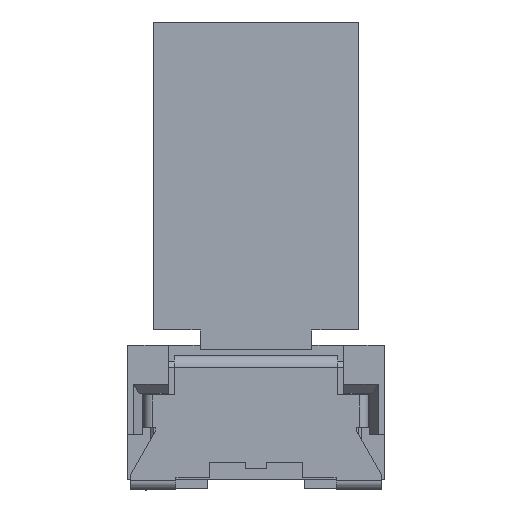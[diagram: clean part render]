
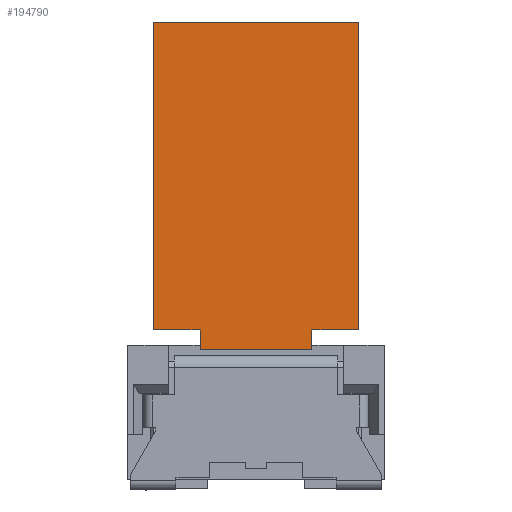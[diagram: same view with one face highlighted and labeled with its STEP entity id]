
A CAD part, left-side view. The second image highlights one B-rep face of the part: STEP entity #194790.
In plain terms, the highlighted planar face has unit normal (-1, 0, 0).
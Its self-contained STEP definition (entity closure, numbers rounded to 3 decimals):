
#40840=CARTESIAN_POINT('',(-11.054,29.1,13.848));
#40850=DIRECTION('',(0.,0.,1.));
#40860=VECTOR('',#40850,1.);
#40870=LINE('',#40840,#40860);
#40880=CARTESIAN_POINT('',(-11.054,29.1,12.9));
#40890=VERTEX_POINT('',#40880);
#40900=CARTESIAN_POINT('',(-11.054,29.1,13.55));
#40910=VERTEX_POINT('',#40900);
#40920=EDGE_CURVE('',#40890,#40910,#40870,.T.);
#41310=CARTESIAN_POINT('',(-11.054,30.22,12.9));
#41320=DIRECTION('',(0.,-1.,0.));
#41330=VECTOR('',#41320,1.);
#41340=LINE('',#41310,#41330);
#41350=CARTESIAN_POINT('',(-11.054,25.4,12.9));
#41360=VERTEX_POINT('',#41350);
#41370=EDGE_CURVE('',#40890,#41360,#41340,.T.);
#122450=CARTESIAN_POINT('',(-11.054,30.65,13.55));
#122460=VERTEX_POINT('',#122450);
#122490=CARTESIAN_POINT('',(-11.054,30.22,13.55));
#122500=DIRECTION('',(0.,1.,0.));
#122510=VECTOR('',#122500,1.);
#122520=LINE('',#122490,#122510);
#122530=EDGE_CURVE('',#40910,#122460,#122520,.T.);
#122680=CARTESIAN_POINT('',(-11.054,25.4,13.55));
#122690=VERTEX_POINT('',#122680);
#122720=CARTESIAN_POINT('',(-11.054,30.22,13.55));
#122730=DIRECTION('',(0.,1.,0.));
#122740=VECTOR('',#122730,1.);
#122750=LINE('',#122720,#122740);
#122760=CARTESIAN_POINT('',(-11.054,23.85,13.55));
#122770=VERTEX_POINT('',#122760);
#122780=EDGE_CURVE('',#122770,#122690,#122750,.T.);
#194170=CARTESIAN_POINT('',(-11.054,25.4,13.848));
#194180=DIRECTION('',(0.,0.,1.));
#194190=VECTOR('',#194180,1.);
#194200=LINE('',#194170,#194190);
#194210=EDGE_CURVE('',#41360,#122690,#194200,.T.);
#194450=CARTESIAN_POINT('',(-11.054,23.85,23.75));
#194460=DIRECTION('',(-1.,0.,0.));
#194470=DIRECTION('',(0.,0.,1.));
#194480=AXIS2_PLACEMENT_3D('',#194450,#194460,#194470);
#194490=PLANE('',#194480);
#194500=ORIENTED_EDGE('',*,*,#41370,.T.);
#194510=ORIENTED_EDGE('',*,*,#40920,.F.);
#194520=ORIENTED_EDGE('',*,*,#122530,.F.);
#194530=CARTESIAN_POINT('',(-11.054,30.65,11.165));
#194540=DIRECTION('',(0.,0.,1.));
#194550=VECTOR('',#194540,1.);
#194560=LINE('',#194530,#194550);
#194570=CARTESIAN_POINT('',(-11.054,30.65,23.75));
#194580=VERTEX_POINT('',#194570);
#194590=EDGE_CURVE('',#122460,#194580,#194560,.T.);
#194600=ORIENTED_EDGE('',*,*,#194590,.F.);
#194610=CARTESIAN_POINT('',(-11.054,30.22,23.75));
#194620=DIRECTION('',(0.,-1.,0.));
#194630=VECTOR('',#194620,1.);
#194640=LINE('',#194610,#194630);
#194650=CARTESIAN_POINT('',(-11.054,23.85,23.75));
#194660=VERTEX_POINT('',#194650);
#194670=EDGE_CURVE('',#194580,#194660,#194640,.T.);
#194680=ORIENTED_EDGE('',*,*,#194670,.F.);
#194690=CARTESIAN_POINT('',(-11.054,23.85,11.165));
#194700=DIRECTION('',(0.,0.,-1.));
#194710=VECTOR('',#194700,1.);
#194720=LINE('',#194690,#194710);
#194730=EDGE_CURVE('',#194660,#122770,#194720,.T.);
#194740=ORIENTED_EDGE('',*,*,#194730,.F.);
#194750=ORIENTED_EDGE('',*,*,#122780,.F.);
#194760=ORIENTED_EDGE('',*,*,#194210,.T.);
#194770=EDGE_LOOP('',(#194760,#194750,#194740,#194680,#194600,#194520,
#194510,#194500));
#194780=FACE_OUTER_BOUND('',#194770,.T.);
#194790=ADVANCED_FACE('',(#194780),#194490,.T.);
